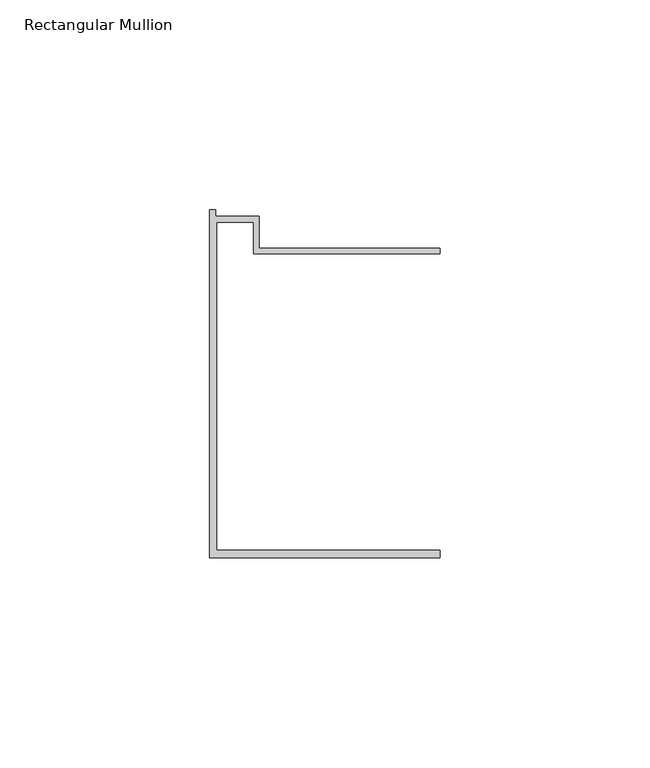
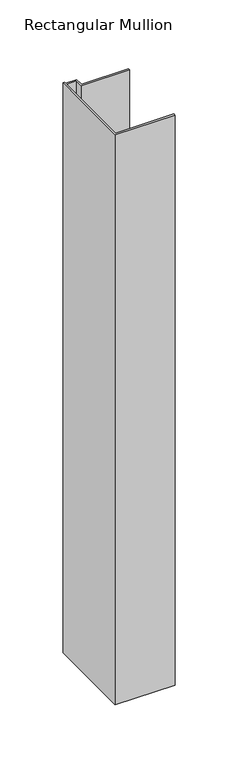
"""IFC4 building model written with IfcOpenShell, lengths in millimetres: member geometry, Rectangular Mullion : Danpal Top Mullion."""

from ifc_helpers import new_model, si_unit, frame, origin, place, context, project, spatial, polyline, outline, extrude, source, transform, mapped, element, save


def rectangular_mullion_c4324c7f(model_context):
    return source(origin(), model_context, "Body", "SweptSolid", [
        extrude(outline(polyline([(0.0, 80.8144448), (-44.4546632, 80.8144448), (-44.4546632, 88.4144116), (-53.2546474, 88.4144116), (-53.2546474, 10.2068341), (0.0, 10.2068341), (0.0, 8.4568509), (-54.8546474, 8.4568509), (-54.8546474, 91.3144448), (-53.4546474, 91.3144448), (-53.4546474, 89.8206003), (-43.0546632, 89.8206003), (-43.0546632, 82.2144448), (0.0, 82.2144448), (0.0, 80.8144448)])), frame((0.0, 0.0, -551.6354657), z_axis=(0.0, 0.0, 1.0), x_axis=(1.0, 0.0, 0.0)), (0.0, 0.0, 1.0), 551.6354657),
    ])


if __name__ == "__main__":
    model = new_model("IFC4")
    model_context = context("Model", 3, world=origin())
    ifc_project = project(units=[si_unit("LENGTHUNIT", "METRE", prefix="MILLI")], contexts=[model_context])
    site = spatial("IfcSite", under=ifc_project)
    building = spatial("IfcBuilding", under=site)
    placement = place(None, origin())
    rectangular_mullion_shape = rectangular_mullion_c4324c7f(model_context)
    element("IfcMember", 1, ObjectType="Rectangular Mullion : Danpal Top Mullion", at=placement, inside=building, context=model_context, shape_type="MappedRepresentation", body=[
        mapped(rectangular_mullion_shape, transform((0.0, 0.0, 0.0), x_axis=(1.0, 0.0, 0.0), y_axis=(0.0, 1.0, 0.0), z_axis=(0.0, 0.0, 1.0))),
    ])
    save(model, "model.ifc")
